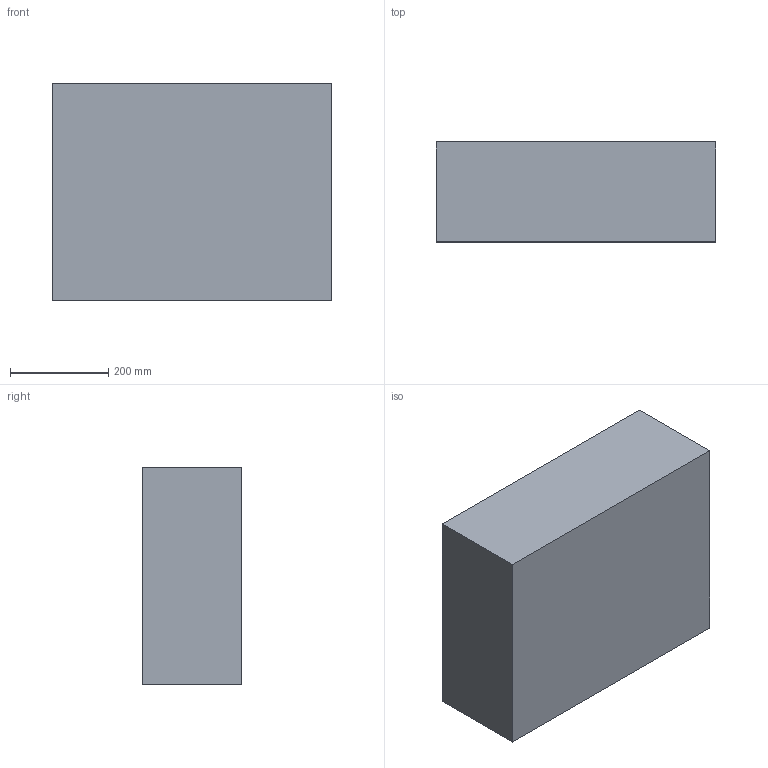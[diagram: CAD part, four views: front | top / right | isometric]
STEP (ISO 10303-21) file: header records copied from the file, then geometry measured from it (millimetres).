
FILE_DESCRIPTION (( 'STEP AP214' ), '1' );
FILE_NAME ('1560E - 932 BOTTOM PID 2-21-2025.STEP', '2025-05-22T04:16:46', ( '' ), ( '' ), 'SwSTEP 2.0', 'SolidWorks 2021', '' );
FILE_SCHEMA (( 'AUTOMOTIVE_DESIGN' ));
Length unit declared in the file: inch
Products named in the file (1): 1560E - 932 BOTTOM PID 2-21-2025
Bounding box: 568.7 x 203.2 x 442.59 mm (x, y, z)
Volume: 16428442.9 mm3; surface area: 1203722 mm2
Topology: 1 solids, 1 shells, 81 faces, 190 edges, 110 vertices
Faces by surface type: cylinder 31, bspline 28, plane 20, sphere 2
Entity records: 3138 total; most frequent: CARTESIAN_POINT 1518, ORIENTED_EDGE 376, DIRECTION 286, EDGE_CURVE 188, VERTEX_POINT 110, AXIS2_PLACEMENT_3D 104, EDGE_LOOP 82, ADVANCED_FACE 81
